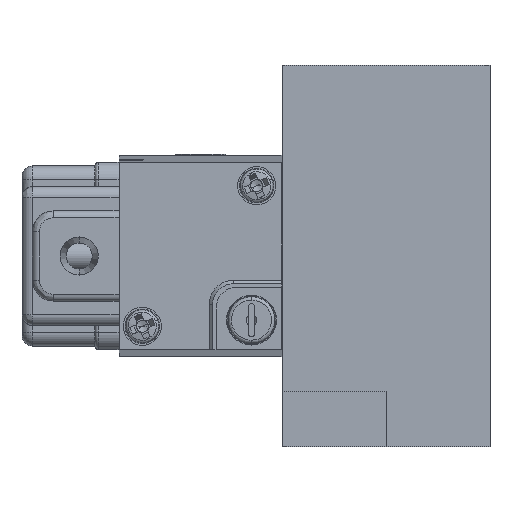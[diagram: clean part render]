
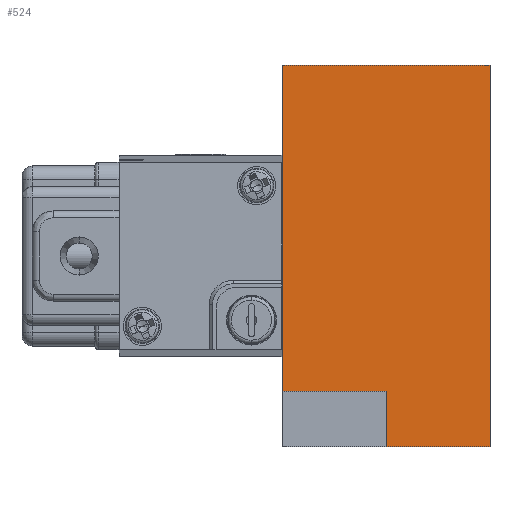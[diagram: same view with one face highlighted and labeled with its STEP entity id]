
A CAD part, left-side view. The second image highlights one B-rep face of the part: STEP entity #524.
In plain terms, the highlighted planar face has unit normal (-1, 0, 0).
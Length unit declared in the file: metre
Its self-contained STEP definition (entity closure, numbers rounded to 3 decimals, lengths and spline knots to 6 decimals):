
#428 = VERTEX_POINT ( 'NONE', #6433 ) ;
#524 = ADVANCED_FACE ( 'NONE', ( #1496 ), #11142, .F. ) ;
#1076 = CARTESIAN_POINT ( 'NONE',  ( -0.034, 0.015, 0. ) ) ;
#1333 = LINE ( 'NONE', #1076, #6074 ) ;
#1395 = CARTESIAN_POINT ( 'NONE',  ( -0.034, 0., -0.0275 ) ) ;
#1404 = VECTOR ( 'NONE', #4092, 1. ) ;
#1496 = FACE_OUTER_BOUND ( 'NONE', #3810, .T. ) ;
#2337 = CARTESIAN_POINT ( 'NONE',  ( -0.034, 0.015, -0.0195 ) ) ;
#2947 = DIRECTION ( 'NONE',  ( 0., 1., 0. ) ) ;
#2979 = VERTEX_POINT ( 'NONE', #5407 ) ;
#3745 = EDGE_CURVE ( 'NONE', #4757, #6856, #8693, .T. ) ;
#3810 = EDGE_LOOP ( 'NONE', ( #4268, #11187, #9399, #11771, #5226, #5137 ) ) ;
#3955 = LINE ( 'NONE', #9558, #9013 ) ;
#4092 = DIRECTION ( 'NONE',  ( 0., 1., 0. ) ) ;
#4143 = EDGE_CURVE ( 'NONE', #428, #7599, #3955, .T. ) ;
#4203 = CARTESIAN_POINT ( 'NONE',  ( -0.034, 0., -0.0275 ) ) ;
#4268 = ORIENTED_EDGE ( 'NONE', *, *, #4143, .F. ) ;
#4757 = VERTEX_POINT ( 'NONE', #7626 ) ;
#4801 = VECTOR ( 'NONE', #9601, 1. ) ;
#5022 = VERTEX_POINT ( 'NONE', #5128 ) ;
#5063 = VECTOR ( 'NONE', #9376, 1. ) ;
#5128 = CARTESIAN_POINT ( 'NONE',  ( -0.034, -0.015, 0.0275 ) ) ;
#5137 = ORIENTED_EDGE ( 'NONE', *, *, #8382, .T. ) ;
#5226 = ORIENTED_EDGE ( 'NONE', *, *, #8218, .T. ) ;
#5407 = CARTESIAN_POINT ( 'NONE',  ( -0.034, 0.015, 0.0275 ) ) ;
#5453 = DIRECTION ( 'NONE',  ( 0., 0., -1. ) ) ;
#6074 = VECTOR ( 'NONE', #6777, 1. ) ;
#6234 = VECTOR ( 'NONE', #5453, 1. ) ;
#6433 = CARTESIAN_POINT ( 'NONE',  ( -0.034, 0., -0.0195 ) ) ;
#6777 = DIRECTION ( 'NONE',  ( 0., 0., -1. ) ) ;
#6856 = VERTEX_POINT ( 'NONE', #1395 ) ;
#7295 = LINE ( 'NONE', #9466, #4801 ) ;
#7298 = EDGE_CURVE ( 'NONE', #6856, #428, #7295, .T. ) ;
#7599 = VERTEX_POINT ( 'NONE', #2337 ) ;
#7626 = CARTESIAN_POINT ( 'NONE',  ( -0.034, -0.015, -0.0275 ) ) ;
#7855 = LINE ( 'NONE', #8429, #5063 ) ;
#8149 = EDGE_CURVE ( 'NONE', #5022, #4757, #8781, .T. ) ;
#8218 = EDGE_CURVE ( 'NONE', #5022, #2979, #7855, .T. ) ;
#8382 = EDGE_CURVE ( 'NONE', #2979, #7599, #1333, .T. ) ;
#8429 = CARTESIAN_POINT ( 'NONE',  ( -0.034, 0., 0.0275 ) ) ;
#8693 = LINE ( 'NONE', #4203, #1404 ) ;
#8781 = LINE ( 'NONE', #11161, #6234 ) ;
#9013 = VECTOR ( 'NONE', #2947, 1. ) ;
#9376 = DIRECTION ( 'NONE',  ( 0., 1., 0. ) ) ;
#9399 = ORIENTED_EDGE ( 'NONE', *, *, #3745, .F. ) ;
#9466 = CARTESIAN_POINT ( 'NONE',  ( -0.034, 0., 0. ) ) ;
#9558 = CARTESIAN_POINT ( 'NONE',  ( -0.034, 0., -0.0195 ) ) ;
#9601 = DIRECTION ( 'NONE',  ( 0., 0., 1. ) ) ;
#11142 = PLANE ( 'NONE',  #11541 ) ;
#11161 = CARTESIAN_POINT ( 'NONE',  ( -0.034, -0.015, 0. ) ) ;
#11187 = ORIENTED_EDGE ( 'NONE', *, *, #7298, .F. ) ;
#11239 = CARTESIAN_POINT ( 'NONE',  ( -0.034, -0.015, 0.0275 ) ) ;
#11307 = DIRECTION ( 'NONE',  ( 1., 0., 0. ) ) ;
#11323 = DIRECTION ( 'NONE',  ( 0., 0., -1. ) ) ;
#11541 = AXIS2_PLACEMENT_3D ( 'NONE', #11239, #11307, #11323 ) ;
#11771 = ORIENTED_EDGE ( 'NONE', *, *, #8149, .F. ) ;
